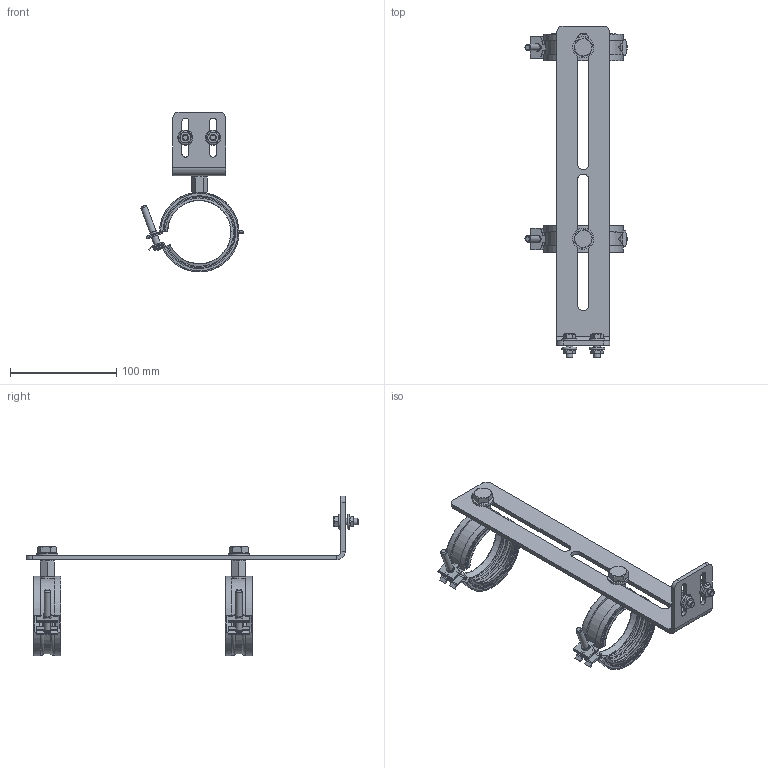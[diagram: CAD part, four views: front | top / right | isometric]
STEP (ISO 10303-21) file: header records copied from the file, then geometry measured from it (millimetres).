
FILE_DESCRIPTION(/* description */ (''),/* implementation_level */ '2;1');
FILE_NAME(/* name */ '100892 AMFE mounting holder set size 5.stp',/* time_stamp */ '2026-08-28T11:34:00+02:00',/* author */ ('ASc'),/* organization */ (''),/* preprocessor_version */ 'ST-DEVELOPER v20',/* originating_system */ 'Autodesk Inventor 2025',/* authorisation */ '');
FILE_SCHEMA (('AUTOMOTIVE_DESIGN { 1 0 10303 214 3 1 1 }'));
Length unit declared in the file: millimetre
Products named in the file (1): 100892 AMFE mounting holder set size 5
Bounding box: 95.93 x 312 x 150.24 mm (x, y, z)
Volume: 123535.7 mm3; surface area: 88357.8 mm2
Topology: 11 solids, 11 shells, 706 faces, 1886 edges, 1196 vertices
Faces by surface type: plane 386, cylinder 162, cone 98, bspline 38, torus 16, sphere 6
Full cylindrical faces by diameter (mm): 2.5 x4, 4.917 x2, 6 x6, 6.8 x2, 7 x2, 8.5 x2, 10 x4, 10.5 x4, 14.63 x2, 20 x2
Entity records: 23957 total; most frequent: CARTESIAN_POINT 5667, ORIENTED_EDGE 3780, DIRECTION 3632, EDGE_CURVE 1890, AXIS2_PLACEMENT_3D 1313, VERTEX_POINT 1196, LINE 1006, VECTOR 1006
